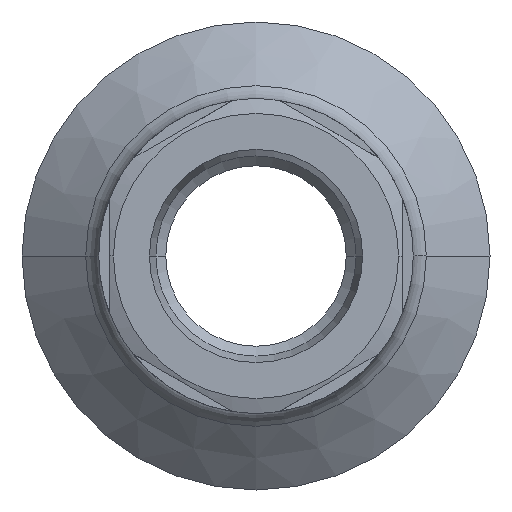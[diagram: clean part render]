
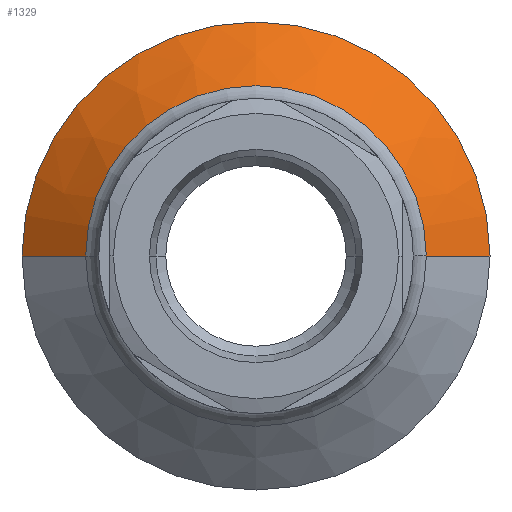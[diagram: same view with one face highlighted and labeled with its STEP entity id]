
A CAD part, left-side view. The second image highlights one B-rep face of the part: STEP entity #1329.
In plain terms, the highlighted conical face has half-angle 50 degrees and reference radius 27.643 mm.
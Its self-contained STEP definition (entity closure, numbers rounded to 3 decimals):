
#47=CARTESIAN_POINT('',(33.811,0.,0.));
#48=DIRECTION('',(1.,0.,0.));
#49=DIRECTION('',(0.,0.,1.));
#50=AXIS2_PLACEMENT_3D('',#47,#48,#49);
#56=CARTESIAN_POINT('',(26.499,0.,0.));
#57=DIRECTION('',(1.,0.,0.));
#58=DIRECTION('',(0.,1.,0.));
#59=AXIS2_PLACEMENT_3D('',#56,#57,#58);
#64=CARTESIAN_POINT('',(33.811,0.,0.));
#65=DIRECTION('',(1.,0.,0.));
#66=DIRECTION('',(0.,1.,0.));
#67=AXIS2_PLACEMENT_3D('',#64,#65,#66);
#148=DIRECTION('',(-0.643,-0.766,0.));
#149=VECTOR('',#148,11.375);
#150=CARTESIAN_POINT('',(33.811,32.,0.));
#151=LINE('',#150,#149);
#163=DIRECTION('',(-0.643,0.766,0.));
#164=VECTOR('',#163,11.375);
#165=CARTESIAN_POINT('',(33.811,-32.,0.));
#166=LINE('',#165,#164);
#1150=CARTESIAN_POINT('',(26.499,-23.286,0.));
#1151=CARTESIAN_POINT('',(26.499,23.286,0.));
#1152=VERTEX_POINT('',#1150);
#1153=VERTEX_POINT('',#1151);
#1232=CARTESIAN_POINT('',(33.811,0.,32.));
#1233=CARTESIAN_POINT('',(33.811,-32.,0.));
#1234=VERTEX_POINT('',#1232);
#1235=VERTEX_POINT('',#1233);
#1236=CARTESIAN_POINT('',(33.811,32.,0.));
#1237=VERTEX_POINT('',#1236);
#1312=CARTESIAN_POINT('',(30.155,0.,0.));
#1313=DIRECTION('',(1.,0.,0.));
#1314=DIRECTION('',(0.,-1.,0.));
#1315=AXIS2_PLACEMENT_3D('',#1312,#1313,#1314);
#1316=CONICAL_SURFACE('',#1315,27.643,50.);
#1318=ORIENTED_EDGE('',*,*,#1317,.T.);
#1320=ORIENTED_EDGE('',*,*,#1319,.T.);
#1322=ORIENTED_EDGE('',*,*,#1321,.F.);
#1324=ORIENTED_EDGE('',*,*,#1323,.F.);
#1326=ORIENTED_EDGE('',*,*,#1325,.T.);
#1327=EDGE_LOOP('',(#1318,#1320,#1322,#1324,#1326));
#1328=FACE_OUTER_BOUND('',#1327,.F.);
#51=CIRCLE('',#50,32.);
#60=CIRCLE('',#59,23.286);
#68=CIRCLE('',#67,32.);
#1317=EDGE_CURVE('',#1234,#1235,#51,.T.);
#1319=EDGE_CURVE('',#1235,#1152,#166,.T.);
#1321=EDGE_CURVE('',#1153,#1152,#60,.T.);
#1323=EDGE_CURVE('',#1237,#1153,#151,.T.);
#1325=EDGE_CURVE('',#1237,#1234,#68,.T.);
#1329=ADVANCED_FACE('',(#1328),#1316,.T.);
